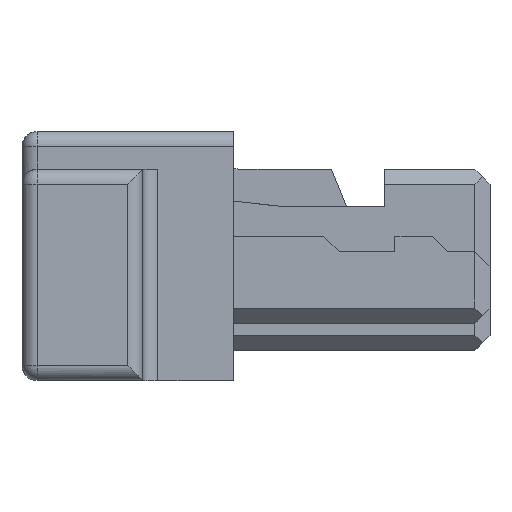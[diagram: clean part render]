
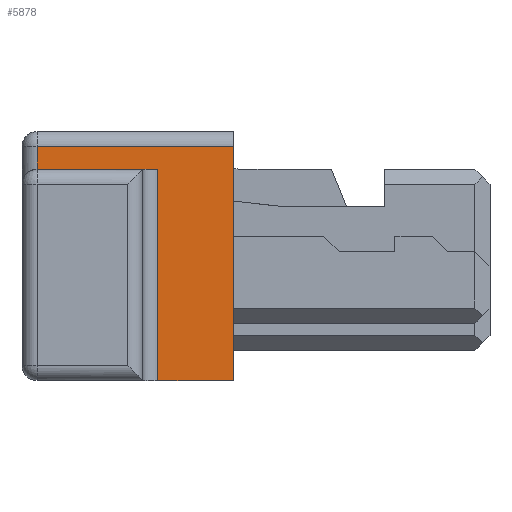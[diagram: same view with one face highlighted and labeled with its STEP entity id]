
A CAD part, front view. The second image highlights one B-rep face of the part: STEP entity #5878.
In plain terms, the highlighted planar face has unit normal (0, -1, 0).
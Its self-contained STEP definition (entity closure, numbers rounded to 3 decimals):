
#25=DIRECTION('',(0.,0.,1.));
#26=VECTOR('',#25,1.55);
#27=CARTESIAN_POINT('',(1.4,-2.4,-1.65));
#28=LINE('',#27,#26);
#92=DIRECTION('',(1.,0.,0.));
#93=VECTOR('',#92,0.5);
#94=CARTESIAN_POINT('',(0.9,-2.4,-1.65));
#95=LINE('',#94,#93);
#205=DIRECTION('',(0.,0.,1.));
#206=VECTOR('',#205,0.15);
#207=CARTESIAN_POINT('',(0.1,-2.4,
-0.25));
#208=LINE('',#207,#206);
#213=DIRECTION('',(-1.,0.,0.));
#214=VECTOR('',#213,1.3);
#215=CARTESIAN_POINT('',(1.4,-2.4,-0.1));
#216=LINE('',#215,#214);
#4118=DIRECTION('',(0.,0.,-1.));
#4119=VECTOR('',#4118,1.4);
#4120=CARTESIAN_POINT('',(0.9,-2.4,
-0.25));
#4121=LINE('',#4120,#4119);
#4192=DIRECTION('',(1.,0.,0.));
#4193=VECTOR('',#4192,0.8);
#4194=CARTESIAN_POINT('',(0.1,-2.4,
-0.25));
#4195=LINE('',#4194,#4193);
#5062=CARTESIAN_POINT('',(0.1,-2.4,
-0.25));
#5063=VERTEX_POINT('',#5062);
#5066=CARTESIAN_POINT('',(0.1,-2.4,
-0.1));
#5067=VERTEX_POINT('',#5066);
#5070=CARTESIAN_POINT('',(1.4,-2.4,-1.65));
#5071=CARTESIAN_POINT('',(1.4,-2.4,-0.1));
#5072=VERTEX_POINT('',#5070);
#5073=VERTEX_POINT('',#5071);
#5074=CARTESIAN_POINT('',(0.9,-2.4,
-1.65));
#5075=VERTEX_POINT('',#5074);
#5076=CARTESIAN_POINT('',(0.9,-2.4,
-0.25));
#5077=VERTEX_POINT('',#5076);
#5862=CARTESIAN_POINT('',(0.75,-2.4,-0.875));
#5863=DIRECTION('',(0.,1.,0.));
#5864=DIRECTION('',(-1.,0.,0.));
#5865=AXIS2_PLACEMENT_3D('',#5862,#5863,#5864);
#5866=PLANE('',#5865);
#5867=ORIENTED_EDGE('',*,*,#5853,.T.);
#5869=ORIENTED_EDGE('',*,*,#5868,.F.);
#5870=ORIENTED_EDGE('',*,*,#5639,.F.);
#5871=ORIENTED_EDGE('',*,*,#5752,.F.);
#5873=ORIENTED_EDGE('',*,*,#5872,.F.);
#5875=ORIENTED_EDGE('',*,*,#5874,.F.);
#5876=EDGE_LOOP('',(#5867,#5869,#5870,#5871,#5873,#5875));
#5877=FACE_OUTER_BOUND('',#5876,.F.);
#5639=EDGE_CURVE('',#5072,#5073,#28,.T.);
#5752=EDGE_CURVE('',#5075,#5072,#95,.T.);
#5853=EDGE_CURVE('',#5063,#5067,#208,.T.);
#5868=EDGE_CURVE('',#5073,#5067,#216,.T.);
#5872=EDGE_CURVE('',#5077,#5075,#4121,.T.);
#5874=EDGE_CURVE('',#5063,#5077,#4195,.T.);
#5878=ADVANCED_FACE('',(#5877),#5866,.F.);
